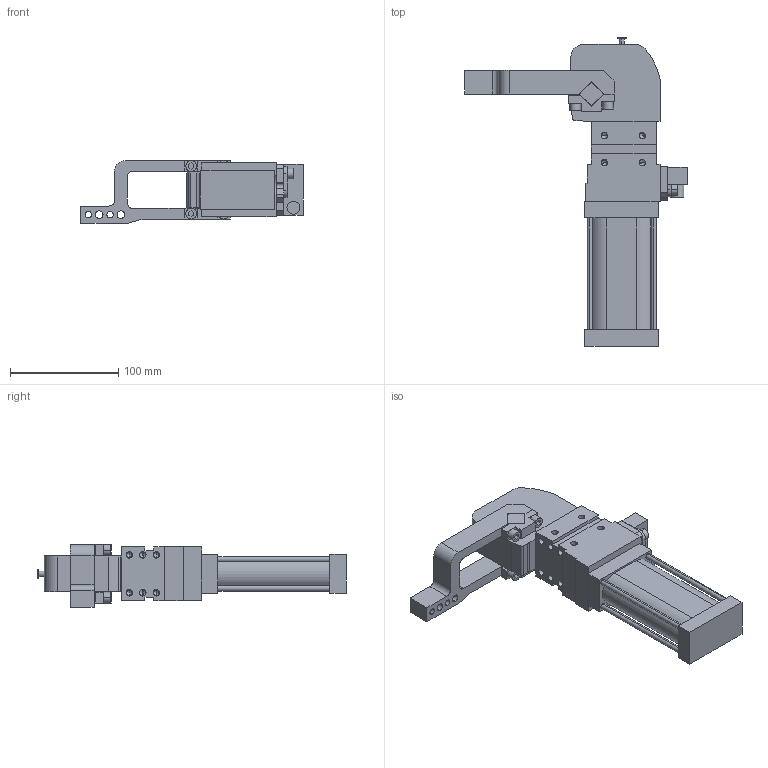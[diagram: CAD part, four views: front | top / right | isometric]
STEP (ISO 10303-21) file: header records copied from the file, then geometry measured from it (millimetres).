
FILE_DESCRIPTION (( 'STEP AP214' ), '1' );
FILE_NAME ('cpl40v2di1g_135.STEP', '2021-05-25T10:38:30', ( '' ), ( '' ), 'SwSTEP 2.0', 'SolidWorks 2021', '' );
FILE_SCHEMA (( 'AUTOMOTIVE_DESIGN' ));
Length unit declared in the file: millimetre
Products named in the file (5): cpl40v2di1g_135; leva_v2d_cpl40; piastra_blocchetto_cpl40; meccanica_cpl40; blocchetto_VEP_0_cpl40
Assembly tree (4 placements, depth 2):
  cpl40v2di1g_135
    meccanica_cpl40
    blocchetto_VEP_0_cpl40
    piastra_blocchetto_cpl40
    leva_v2d_cpl40
Bounding box: 205.5 x 285 x 58 mm (x, y, z)
Volume: 766650.2 mm3; surface area: 116512.3 mm2
Topology: 5 solids, 5 shells, 431 faces, 1097 edges, 687 vertices
Faces by surface type: plane 242, cylinder 141, cone 48
Entity records: 14240 total; most frequent: DIRECTION 2239, CARTESIAN_POINT 2176, ORIENTED_EDGE 2102, EDGE_CURVE 1051, AXIS2_PLACEMENT_3D 750, VECTOR 739, LINE 739, VERTEX_POINT 687
